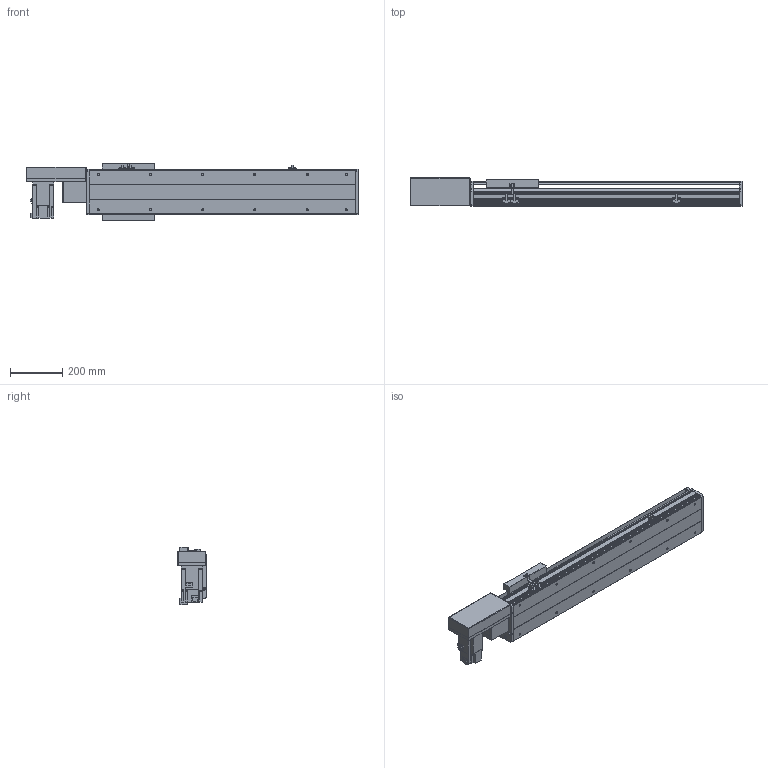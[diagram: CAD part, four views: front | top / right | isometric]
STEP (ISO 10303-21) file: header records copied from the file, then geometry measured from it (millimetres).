
FILE_DESCRIPTION(/* description */ ('STEP AP214'),/* implementation_level */ '2;1');
FILE_NAME(/* name */ 'PBS200-P40-S650-R-T75-C1-N(0)',/* time_stamp */ '2022-06-11T08:04:02+02:00',/* author */ ('License CC BY-ND 4.0'),/* organization */ ('CADENAS'),/* preprocessor_version */ 'ST-DEVELOPER v18.102',/* originating_system */ 'PARTsolutions',/* authorisation */ ' ');
FILE_SCHEMA (('AUTOMOTIVE_DESIGN {1 0 10303 214 3 1 1}'));
Length unit declared in the file: millimetre
Products named in the file (7): PBS200-P40-S650-R-T75-C1-N(0); PBS200_sensor; PBS200_plant; PBS200_sliser; T75-p1; PBS200T-R_motors; PBS200-S650()_body
Assembly tree (8 placements, depth 2):
  PBS200-P40-S650-R-T75-C1-N(0)
    PBS200_sensor  x3
    PBS200_plant
    PBS200_sliser
    T75-p1
    PBS200T-R_motors
    PBS200-S650()_body
Bounding box: 1272 x 109 x 221 mm (x, y, z)
Volume: 9051852.1 mm3; surface area: 1474894.9 mm2
Topology: 8 solids, 8 shells, 908 faces, 2354 edges, 1536 vertices
Faces by surface type: plane 570, cylinder 294, cone 44
Full cylindrical faces by diameter (mm): 2.459 x6, 3.242 x4, 4.5 x6, 4.917 x4, 5 x6, 6 x7, 6.6 x8, 6.647 x16, 8 x6, 10 x4, 12 x8, 38 x2, 40 x1, 70 x1
Entity records: 24341 total; most frequent: DIRECTION 4279, CARTESIAN_POINT 4156, ORIENTED_EDGE 3958, EDGE_CURVE 1979, AXIS2_PLACEMENT_3D 1483, VERTEX_POINT 1360, LINE 1313, VECTOR 1313
